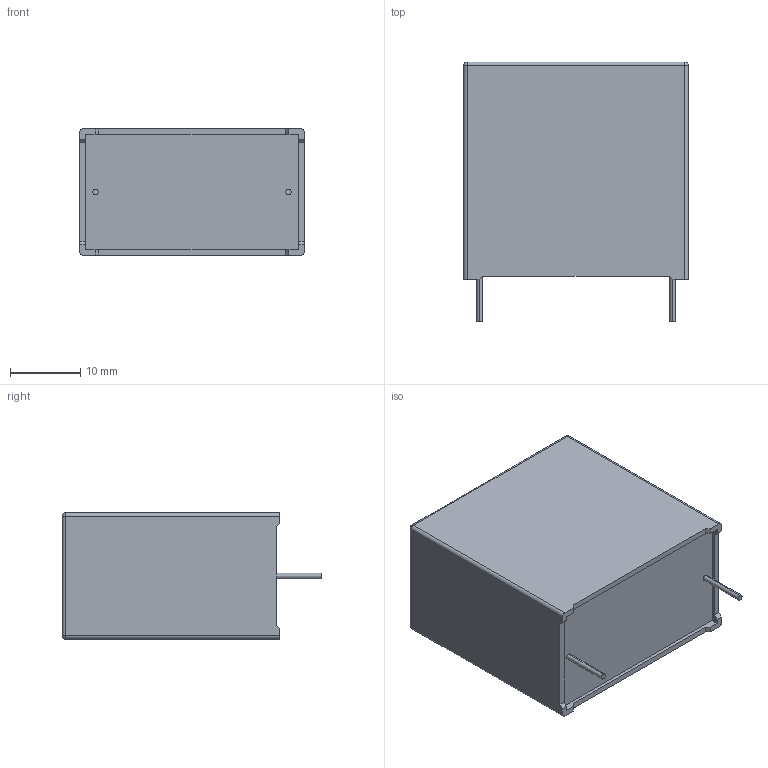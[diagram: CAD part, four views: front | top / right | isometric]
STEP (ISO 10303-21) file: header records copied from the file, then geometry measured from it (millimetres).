
FILE_DESCRIPTION (( 'STEP AP203' ), '1' );
FILE_NAME ('DC_Link_18x31x32_2pins.step', '2017-04-03T15:59:47', ( 'work' ), ( 'Hewlett-Packard Company' ), 'SwSTEP 2.0', 'SolidWorks 2017', '' );
FILE_SCHEMA (( 'CONFIG_CONTROL_DESIGN' ));
Length unit declared in the file: millimetre
Products named in the file (1): DC_Link_18x31x32_2pins
Bounding box: 32 x 37 x 18 mm (x, y, z)
Volume: 17320.8 mm3; surface area: 4250.2 mm2
Topology: 1 solids, 1 shells, 116 faces, 307 edges, 198 vertices
Faces by surface type: plane 80, cylinder 16, bspline 16, sphere 4
Entity records: 4292 total; most frequent: CARTESIAN_POINT 1442, ORIENTED_EDGE 606, DIRECTION 505, EDGE_CURVE 303, LINE 239, VECTOR 239, VERTEX_POINT 198, AXIS2_PLACEMENT_3D 133
